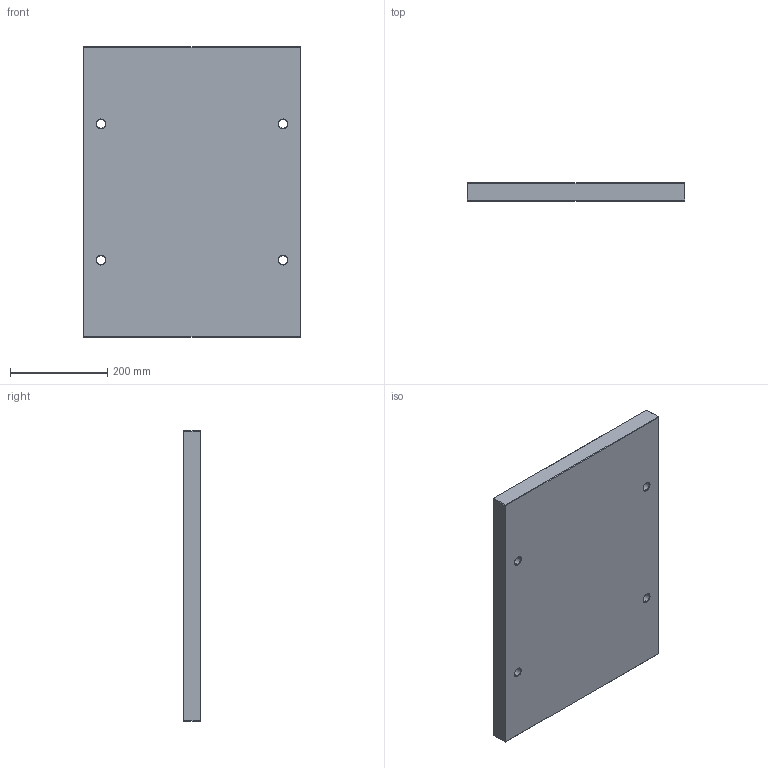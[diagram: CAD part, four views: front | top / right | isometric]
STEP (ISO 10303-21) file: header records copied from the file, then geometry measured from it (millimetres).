
FILE_DESCRIPTION (( 'STEP AP214' ), '1' );
FILE_NAME ('PBAV-446x446x36.STEP', '2020-03-18T17:23:03', ( 'August' ), ( '' ), 'SwSTEP 2.0', 'SolidWorks 2018', '' );
FILE_SCHEMA (( 'AUTOMOTIVE_DESIGN' ));
Length unit declared in the file: millimetre
Products named in the file (1): PBAV-446x446x36
Bounding box: 446 x 36 x 596 mm (x, y, z)
Volume: 9510391.8 mm3; surface area: 611730.4 mm2
Topology: 1 solids, 1 shells, 62 faces, 128 edges, 72 vertices
Faces by surface type: plane 30, cone 16, cylinder 16
Entity records: 1650 total; most frequent: DIRECTION 302, CARTESIAN_POINT 263, ORIENTED_EDGE 256, EDGE_CURVE 128, AXIS2_PLACEMENT_3D 111, LINE 80, VECTOR 80, EDGE_LOOP 74
